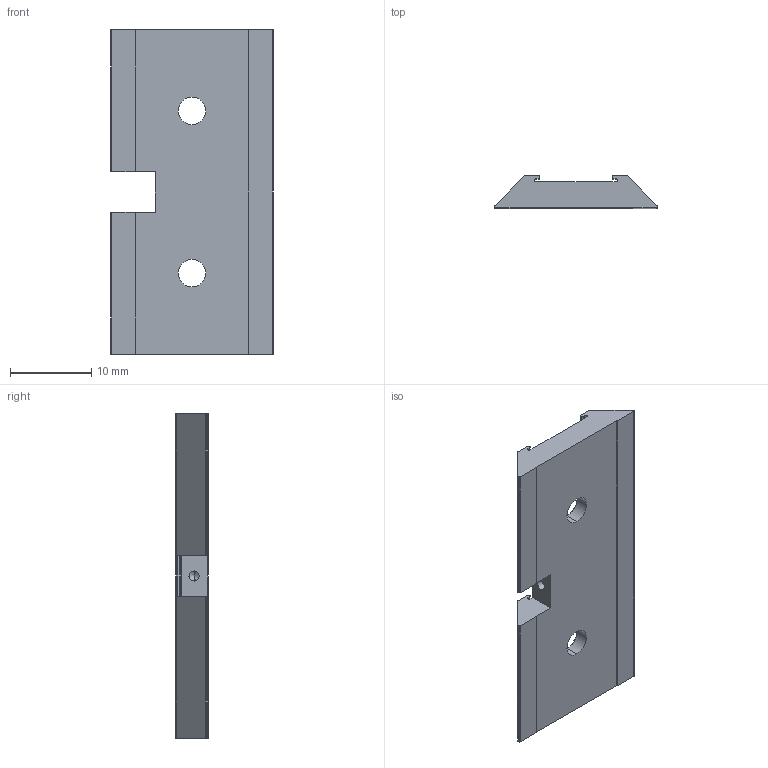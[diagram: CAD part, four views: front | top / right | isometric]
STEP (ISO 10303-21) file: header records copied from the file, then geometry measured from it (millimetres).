
FILE_DESCRIPTION (( 'STEP AP214' ), '1' );
FILE_NAME ('Profile-TRE004A00.STEP', '2015-11-27T10:41:50', ( '' ), ( '' ), 'SwSTEP 2.0', 'SolidWorks 2013', '' );
FILE_SCHEMA (( 'AUTOMOTIVE_DESIGN' ));
Length unit declared in the file: millimetre
Products named in the file (1): Profile-TRE004A00
Bounding box: 20 x 4 x 40 mm (x, y, z)
Volume: 2076.6 mm3; surface area: 2072.2 mm2
Topology: 1 solids, 1 shells, 70 faces, 196 edges, 129 vertices
Faces by surface type: plane 37, cylinder 31, cone 2
Entity records: 2294 total; most frequent: DIRECTION 398, CARTESIAN_POINT 394, ORIENTED_EDGE 388, EDGE_CURVE 194, AXIS2_PLACEMENT_3D 133, LINE 132, VECTOR 132, VERTEX_POINT 129
